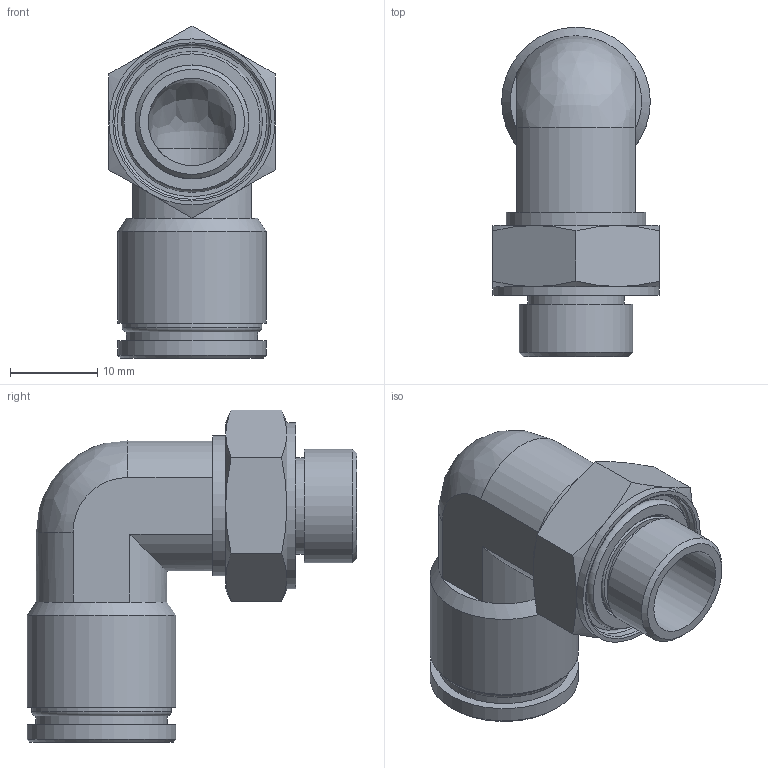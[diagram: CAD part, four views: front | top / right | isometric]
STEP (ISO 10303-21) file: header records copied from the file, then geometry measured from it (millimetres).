
FILE_DESCRIPTION(/* description */ (''),/* implementation_level */ '2;1');
FILE_NAME(/* name */ 'LXH28 0012 B2.stp',/* time_stamp */ '2026-04-30T12:26:19+02:00',/* author */ ('freju'),/* organization */ (''),/* preprocessor_version */ 'ST-DEVELOPER v20.1',/* originating_system */ 'Autodesk Inventor 2026',/* authorisation */ '');
FILE_SCHEMA (('AUTOMOTIVE_DESIGN { 1 0 10303 214 3 1 1 }'));
Length unit declared in the file: millimetre
Products named in the file (4): LXH28 0012 B2; LXH28 0012 B2_1; O-Ring; ISO 3601-1 - A 0125 G
Assembly tree (3 placements, depth 3):
  LXH28 0012 B2
    LXH28 0012 B2_1
    O-Ring
      ISO 3601-1 - A 0125 G
Bounding box: 19 x 37.7 x 37.97 mm (x, y, z)
Volume: 5873.5 mm3; surface area: 5596.1 mm2
Topology: 2 solids, 2 shells, 64 faces, 137 edges, 84 vertices
Faces by surface type: plane 23, cylinder 17, cone 15, torus 7, bspline 2
Full cylindrical faces by diameter (mm): 10 x2, 11 x1, 12 x1, 12.5 x1, 13 x1, 15 x1, 16 x2, 17 x2, 17.7 x1, 19 x1
Entity records: 1884 total; most frequent: CARTESIAN_POINT 372, DIRECTION 326, ORIENTED_EDGE 270, AXIS2_PLACEMENT_3D 146, EDGE_CURVE 135, VERTEX_POINT 84, EDGE_LOOP 77, CIRCLE 75
